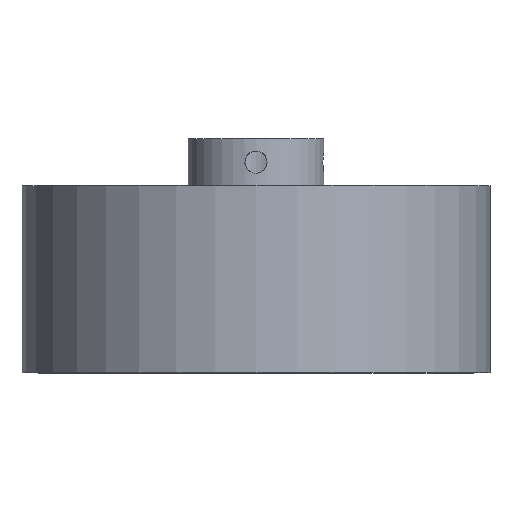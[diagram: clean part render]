
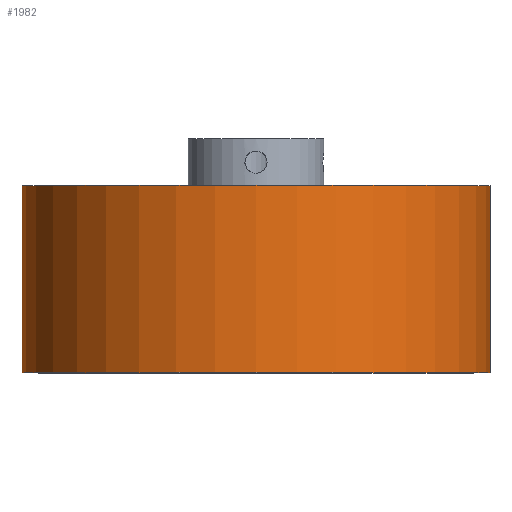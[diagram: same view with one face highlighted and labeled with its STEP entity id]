
A CAD part, top view. The second image highlights one B-rep face of the part: STEP entity #1982.
In plain terms, the highlighted cylindrical face has radius 63.5 mm (diameter 127 mm), a full revolution.
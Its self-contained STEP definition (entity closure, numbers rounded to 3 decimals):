
#270=FACE_OUTER_BOUND('',#364,.T.);
#364=EDGE_LOOP('',(#1623,#1624,#1625,#1626));
#550=LINE('',#3317,#696);
#696=VECTOR('',#2771,63.5);
#815=CIRCLE('',#2212,63.5);
#816=CIRCLE('',#2213,63.5);
#991=VERTEX_POINT('',#3314);
#992=VERTEX_POINT('',#3316);
#1262=EDGE_CURVE('',#991,#991,#815,.T.);
#1263=EDGE_CURVE('',#991,#992,#550,.T.);
#1264=EDGE_CURVE('',#992,#992,#816,.T.);
#1623=ORIENTED_EDGE('',*,*,#1262,.F.);
#1624=ORIENTED_EDGE('',*,*,#1263,.T.);
#1625=ORIENTED_EDGE('',*,*,#1264,.T.);
#1626=ORIENTED_EDGE('',*,*,#1263,.F.);
#1892=CYLINDRICAL_SURFACE('',#2211,63.5);
#1982=ADVANCED_FACE('',(#270),#1892,.T.);
#2211=AXIS2_PLACEMENT_3D('',#3313,#2767,#2768);
#2212=AXIS2_PLACEMENT_3D('',#3315,#2769,#2770);
#2213=AXIS2_PLACEMENT_3D('',#3318,#2772,#2773);
#2767=DIRECTION('center_axis',(0.,1.,0.));
#2768=DIRECTION('ref_axis',(-1.,0.,0.));
#2769=DIRECTION('center_axis',(0.,1.,0.));
#2770=DIRECTION('ref_axis',(-1.,0.,0.));
#2771=DIRECTION('',(0.,-1.,0.));
#2772=DIRECTION('center_axis',(0.,1.,0.));
#2773=DIRECTION('ref_axis',(-1.,0.,0.));
#3313=CARTESIAN_POINT('Origin',(0.,0.,0.));
#3314=CARTESIAN_POINT('',(63.5,50.8,0.));
#3315=CARTESIAN_POINT('Origin',(0.,50.8,0.));
#3316=CARTESIAN_POINT('',(63.5,0.,0.));
#3317=CARTESIAN_POINT('',(63.5,0.,0.));
#3318=CARTESIAN_POINT('Origin',(0.,0.,0.));
